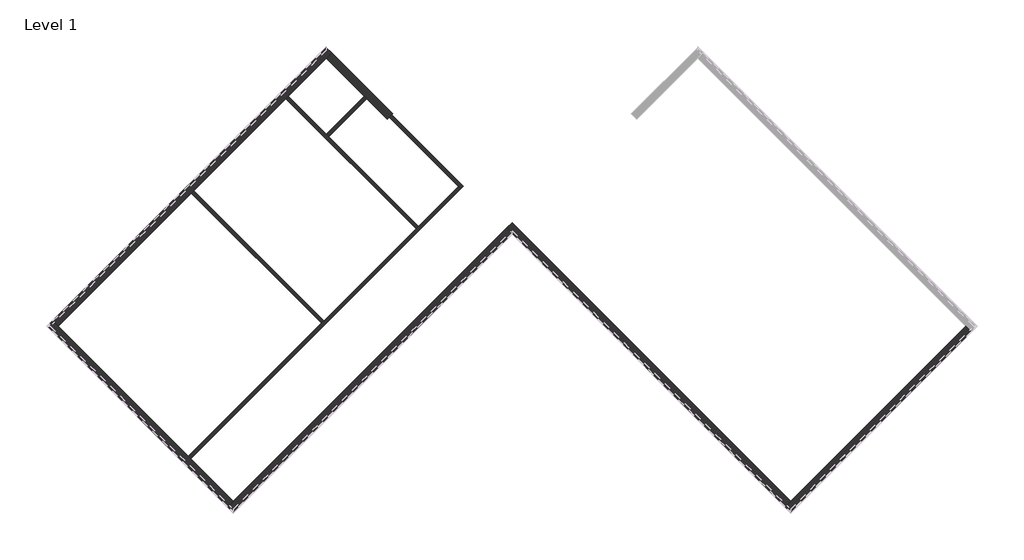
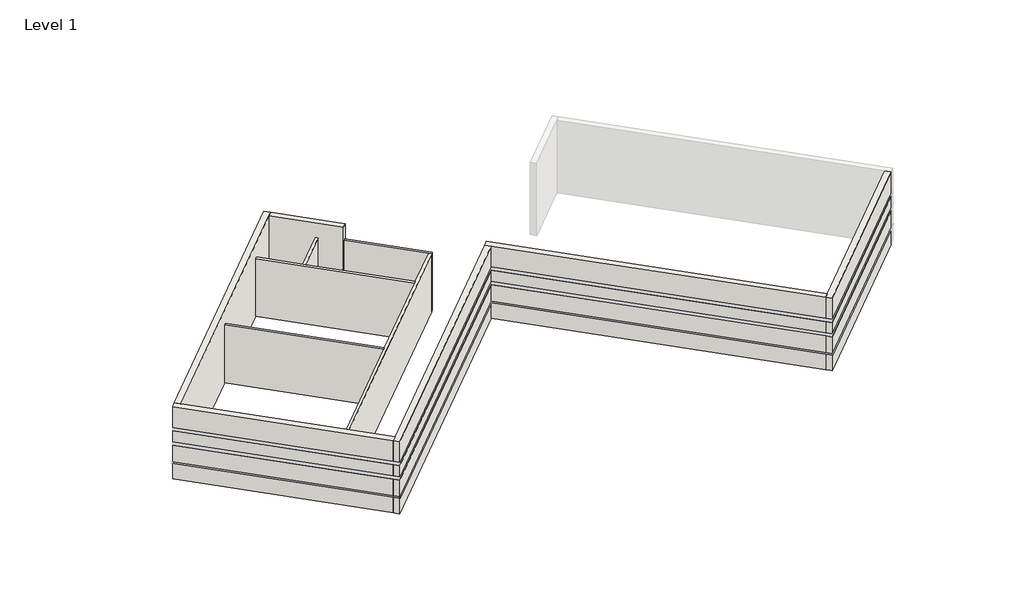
# One storey, part 1 of 2: 11 walls.
"""IFC4 building model written with IfcOpenShell, lengths in millimetres."""

from ifc_helpers import new_model, si_unit, frame, origin, origin_with_axes, place, context, project, spatial, polyline, circle_curve, outline, extrude, faceted_brep, element, save
from ifc_brep_helpers import plane_surface, cylinder_surface, revolved_surface, advanced_brep

model = new_model("IFC4")

# Units and contexts
model_context = context("Model", 3, world=origin())
ifc_project = project(units=[si_unit("LENGTHUNIT", "METRE", prefix="MILLI")], contexts=[model_context])

# Site, building, storey
site = spatial("IfcSite", under=ifc_project)
building = spatial("IfcBuilding", under=site)
storey = spatial("IfcBuildingStorey", under=building, Name="Level 1", Elevation=0.0)

# Walls
placement = place(None, origin())
element("IfcWall", 1, ObjectType="Exterior - Split Face and CMU on Mtl. Stud", at=placement, inside=storey, context=model_context, shape_type="Brep", body=[
    faceted_brep([(18186.1821115, -1357.9895101, 0.0), (10063.54045, -9480.6311716, 0.0), (9814.3383427, -9729.833279, 0.0), (9814.3383427, -9729.833279, 1016.0), (9879.4451996, -9664.7264221, 1016.0), (9879.4451996, -9664.7264221, 1085.85), (9814.3383427, -9729.833279, 1085.85), (9814.3383427, -9729.833279, 2133.6), (9879.4451996, -9664.7264221, 2133.6), (9879.4451996, -9664.7264221, 2336.8), (9814.3383427, -9729.833279, 2336.8), (9814.3383427, -9729.833279, 3048.0), (9879.4451996, -9664.7264221, 3048.0), (9879.4451996, -9664.7264221, 3251.2), (9814.3383427, -9729.833279, 3251.2), (9814.3383427, -9729.833279, 4572.0), (10063.54045, -9480.6311716, 4572.0), (18186.1821115, -1357.9895101, 4572.0), (18435.3842189, -1607.1916175, 4572.0), (10063.54045, -9979.0353863, 4572.0), (10063.54045, -9979.0353863, 3251.2), (18435.3842189, -1607.1916175, 3251.2), (10063.54045, -9979.0353863, 0.0), (18435.3842189, -1607.1916175, 0.0), (18435.3842189, -1607.1916175, 1016.0), (10063.54045, -9979.0353863, 1016.0), (10063.54045, -9979.0353863, 1085.85), (18435.3842189, -1607.1916175, 1085.85), (18435.3842189, -1607.1916175, 2133.6), (10063.54045, -9979.0353863, 2133.6), (10063.54045, -9979.0353863, 2336.8), (18435.3842189, -1607.1916175, 2336.8), (18435.3842189, -1607.1916175, 3048.0), (10063.54045, -9979.0353863, 3048.0), (9998.4335932, -9913.9285294, 0.0), (18370.277362, -1542.0847606, 3251.2), (18370.277362, -1542.0847606, 3048.0), (18370.277362, -1542.0847606, 2336.8), (18370.277362, -1542.0847606, 2133.6), (18370.277362, -1542.0847606, 1085.85), (18370.277362, -1542.0847606, 1016.0), (18370.277362, -1542.0847606, 0.0), (10063.54045, -9848.8216726, 1085.85), (10063.54045, -9848.8216726, 1016.0), (10063.54045, -9848.8216726, 2133.6), (10063.54045, -9848.8216726, 2336.8), (10063.54045, -9848.8216726, 3048.0), (10063.54045, -9848.8216726, 3251.2)], [[[0, 1, 2, 3, 4, 5, 6, 7, 8, 9, 10, 11, 12, 13, 14, 15, 16, 17]], [[18, 19, 20, 21]], [[22, 23, 24, 25]], [[26, 27, 28, 29]], [[30, 31, 32, 33]], [[17, 16, 15, 19, 18]], [[19, 15, 14, 20]], [[2, 34, 22, 25, 3]], [[6, 26, 29, 7]], [[10, 30, 33, 11]], [[0, 17, 18, 21, 35, 36, 32, 31, 37, 38, 28, 27, 39, 40, 24, 23, 41]], [[2, 1, 0, 41, 34]], [[41, 23, 22, 34]], [[5, 42, 39, 27, 26, 6]], [[40, 43, 4, 3, 25, 24]], [[42, 43, 40, 39]], [[43, 42, 5, 4]], [[38, 44, 8, 7, 29, 28]], [[9, 45, 37, 31, 30, 10]], [[45, 44, 38, 37]], [[44, 45, 9, 8]], [[36, 46, 12, 11, 33, 32]], [[13, 47, 35, 21, 20, 14]], [[47, 46, 36, 35]], [[46, 47, 13, 12]]]),
])
element("IfcWall", 2, ObjectType="Exterior - Split Face and CMU on Mtl. Stud", at=placement, inside=storey, context=model_context, shape_type="Brep", body=[
    faceted_brep([(10063.54045, -9480.6311716, 0.0), (-2868.0283643, 3450.9376427, 0.0), (-2868.0283643, 3450.9376427, 4572.0), (10063.54045, -9480.6311716, 4572.0), (9814.3383427, -9729.833279, 4572.0), (-2868.0283643, 2952.533428, 4572.0), (-3117.2304717, 3201.7355354, 4572.0), (-3117.2304717, 3201.7355354, 0.0), (-2868.0283643, 2952.533428, 0.0), (9814.3383427, -9729.833279, 0.0), (9814.3383427, -9729.833279, 1016.0), (-2868.0283643, 2952.533428, 1016.0), (-2933.1352212, 3017.6402849, 1016.0), (-2933.1352212, 3017.6402849, 1085.85), (-2868.0283643, 2952.533428, 1085.85), (9814.3383427, -9729.833279, 1085.85), (9814.3383427, -9729.833279, 2133.6), (-2868.0283643, 2952.533428, 2133.6), (-2933.1352212, 3017.6402849, 2133.6), (-2933.1352212, 3017.6402849, 2336.8), (-2868.0283643, 2952.533428, 2336.8), (9814.3383427, -9729.833279, 2336.8), (9814.3383427, -9729.833279, 3048.0), (-2868.0283643, 2952.533428, 3048.0), (-2933.1352212, 3017.6402849, 3048.0), (-2933.1352212, 3017.6402849, 3251.2), (-2868.0283643, 2952.533428, 3251.2), (9814.3383427, -9729.833279, 3251.2), (-3052.1236148, 3266.8423923, 0.0), (9879.4451996, -9664.7264221, 3251.2), (9879.4451996, -9664.7264221, 3048.0), (9879.4451996, -9664.7264221, 2336.8), (9879.4451996, -9664.7264221, 2133.6), (9879.4451996, -9664.7264221, 1085.85), (9879.4451996, -9664.7264221, 1016.0), (9879.4451996, -9664.7264221, 0.0), (-2868.0283643, 3082.7471418, 1085.85), (-2868.0283643, 3082.7471418, 1016.0), (-2868.0283643, 3082.7471418, 2133.6), (-2868.0283643, 3082.7471418, 2336.8), (-2868.0283643, 3082.7471418, 3048.0), (-2868.0283643, 3082.7471418, 3251.2)], [[[0, 1, 2, 3]], [[4, 5, 6, 7, 8, 9, 10, 11, 12, 13, 14, 15, 16, 17, 18, 19, 20, 21, 22, 23, 24, 25, 26, 27]], [[3, 2, 6, 5, 4]], [[2, 1, 28, 7, 6]], [[0, 3, 4, 27, 29, 30, 22, 21, 31, 32, 16, 15, 33, 34, 10, 9, 35]], [[1, 0, 35, 28]], [[35, 9, 8, 7, 28]], [[13, 36, 33, 15, 14]], [[34, 37, 12, 11, 10]], [[36, 37, 34, 33]], [[37, 36, 13, 12]], [[32, 38, 18, 17, 16]], [[19, 39, 31, 21, 20]], [[39, 38, 32, 31]], [[38, 39, 19, 18]], [[30, 40, 24, 23, 22]], [[25, 41, 29, 27, 26]], [[41, 40, 30, 29]], [[40, 41, 25, 24]]]),
])
element("IfcWall", 3, ObjectType="Exterior - Split Face and CMU on Mtl. Stud", at=placement, inside=storey, context=model_context, shape_type="Brep", body=[
    faceted_brep([(-3117.2304717, 3201.7355354, 0.0), (-15799.5971786, -9480.6311716, 0.0), (-16048.799286, -9729.833279, 0.0), (-16048.799286, -9729.833279, 1016.0), (-15983.6924291, -9664.7264221, 1016.0), (-15983.6924291, -9664.7264221, 1085.85), (-16048.799286, -9729.833279, 1085.85), (-16048.799286, -9729.833279, 2133.6), (-15983.6924291, -9664.7264221, 2133.6), (-15983.6924291, -9664.7264221, 2336.8), (-16048.799286, -9729.833279, 2336.8), (-16048.799286, -9729.833279, 3048.0), (-15983.6924291, -9664.7264221, 3048.0), (-15983.6924291, -9664.7264221, 3251.2), (-16048.799286, -9729.833279, 3251.2), (-16048.799286, -9729.833279, 4572.0), (-15799.5971786, -9480.6311716, 4572.0), (-3117.2304717, 3201.7355354, 4572.0), (-2868.0283643, 2952.533428, 4572.0), (-15799.5971786, -9979.0353863, 4572.0), (-15799.5971786, -9979.0353863, 3251.2), (-2868.0283643, 2952.533428, 3251.2), (-15799.5971786, -9979.0353863, 0.0), (-2868.0283643, 2952.533428, 0.0), (-2868.0283643, 2952.533428, 1016.0), (-15799.5971786, -9979.0353863, 1016.0), (-15799.5971786, -9979.0353863, 1085.85), (-2868.0283643, 2952.533428, 1085.85), (-2868.0283643, 2952.533428, 2133.6), (-15799.5971786, -9979.0353863, 2133.6), (-15799.5971786, -9979.0353863, 2336.8), (-2868.0283643, 2952.533428, 2336.8), (-2868.0283643, 2952.533428, 3048.0), (-15799.5971786, -9979.0353863, 3048.0), (-15864.7040355, -9913.9285294, 0.0), (-2933.1352212, 3017.6402849, 3251.2), (-2933.1352212, 3017.6402849, 3048.0), (-2933.1352212, 3017.6402849, 2336.8), (-2933.1352212, 3017.6402849, 2133.6), (-2933.1352212, 3017.6402849, 1085.85), (-2933.1352212, 3017.6402849, 1016.0), (-2933.1352212, 3017.6402849, 0.0), (-15799.5971786, -9848.8216726, 1085.85), (-15799.5971786, -9848.8216726, 1016.0), (-15799.5971786, -9848.8216726, 2133.6), (-15799.5971786, -9848.8216726, 2336.8), (-15799.5971786, -9848.8216726, 3048.0), (-15799.5971786, -9848.8216726, 3251.2)], [[[0, 1, 2, 3, 4, 5, 6, 7, 8, 9, 10, 11, 12, 13, 14, 15, 16, 17]], [[18, 19, 20, 21]], [[22, 23, 24, 25]], [[26, 27, 28, 29]], [[30, 31, 32, 33]], [[17, 16, 15, 19, 18]], [[19, 15, 14, 20]], [[2, 34, 22, 25, 3]], [[6, 26, 29, 7]], [[10, 30, 33, 11]], [[0, 17, 18, 21, 35, 36, 32, 31, 37, 38, 28, 27, 39, 40, 24, 23, 41]], [[2, 1, 0, 41, 34]], [[41, 23, 22, 34]], [[5, 42, 39, 27, 26, 6]], [[40, 43, 4, 3, 25, 24]], [[42, 43, 40, 39]], [[43, 42, 5, 4]], [[38, 44, 8, 7, 29, 28]], [[9, 45, 37, 31, 30, 10]], [[45, 44, 38, 37]], [[44, 45, 9, 8]], [[36, 46, 12, 11, 33, 32]], [[13, 47, 35, 21, 20, 14]], [[47, 46, 36, 35]], [[46, 47, 13, 12]]]),
])
element("IfcWall", 4, ObjectType="Exterior - Split Face and CMU on Mtl. Stud", at=placement, inside=storey, context=model_context, shape_type="Brep", body=[
    faceted_brep([(-15799.5971786, -9480.6311716, 0.0), (-17775.2535253, -7504.974825, 0.0), (-17885.2616628, -7394.9666875, 0.0), (-23922.2388402, -1357.9895101, 0.0), (-24171.4409475, -1108.7874027, 0.0), (-24171.4409475, -1108.7874027, 1016.0), (-24106.3340906, -1173.8942596, 1016.0), (-24106.3340906, -1173.8942596, 1085.85), (-24171.4409475, -1108.7874027, 1085.85), (-24171.4409475, -1108.7874027, 2133.6), (-24106.3340906, -1173.8942596, 2133.6), (-24106.3340906, -1173.8942596, 2336.8), (-24171.4409475, -1108.7874027, 2336.8), (-24171.4409475, -1108.7874027, 3048.0), (-24106.3340906, -1173.8942596, 3048.0), (-24106.3340906, -1173.8942596, 3251.2), (-24171.4409475, -1108.7874027, 3251.2), (-24171.4409475, -1108.7874027, 4572.0), (-23922.2388402, -1357.9895101, 4572.0), (-15799.5971786, -9480.6311716, 4572.0), (-16048.799286, -9729.833279, 4572.0), (-24420.6430549, -1357.9895101, 4572.0), (-24420.6430549, -1357.9895101, 3251.2), (-16048.799286, -9729.833279, 3251.2), (-24420.6430549, -1357.9895101, 0.0), (-16048.799286, -9729.833279, 0.0), (-16048.799286, -9729.833279, 1016.0), (-24420.6430549, -1357.9895101, 1016.0), (-24420.6430549, -1357.9895101, 1085.85), (-16048.799286, -9729.833279, 1085.85), (-16048.799286, -9729.833279, 2133.6), (-24420.6430549, -1357.9895101, 2133.6), (-24420.6430549, -1357.9895101, 2336.8), (-16048.799286, -9729.833279, 2336.8), (-16048.799286, -9729.833279, 3048.0), (-24420.6430549, -1357.9895101, 3048.0), (-24355.536198, -1292.8826532, 0.0), (-15983.6924291, -9664.7264221, 3251.2), (-15983.6924291, -9664.7264221, 3048.0), (-15983.6924291, -9664.7264221, 2336.8), (-15983.6924291, -9664.7264221, 2133.6), (-15983.6924291, -9664.7264221, 1085.85), (-15983.6924291, -9664.7264221, 1016.0), (-15983.6924291, -9664.7264221, 0.0), (-24290.4293411, -1357.9895101, 1085.85), (-24290.4293411, -1357.9895101, 1016.0), (-24290.4293411, -1357.9895101, 2133.6), (-24290.4293411, -1357.9895101, 2336.8), (-24290.4293411, -1357.9895101, 3048.0), (-24290.4293411, -1357.9895101, 3251.2)], [[[0, 1, 2, 3, 4, 5, 6, 7, 8, 9, 10, 11, 12, 13, 14, 15, 16, 17, 18, 19]], [[20, 21, 22, 23]], [[24, 25, 26, 27]], [[28, 29, 30, 31]], [[32, 33, 34, 35]], [[19, 18, 17, 21, 20]], [[21, 17, 16, 22]], [[4, 36, 24, 27, 5]], [[8, 28, 31, 9]], [[12, 32, 35, 13]], [[0, 19, 20, 23, 37, 38, 34, 33, 39, 40, 30, 29, 41, 42, 26, 25, 43]], [[4, 3, 2, 1, 0, 43, 36]], [[43, 25, 24, 36]], [[7, 44, 41, 29, 28, 8]], [[42, 45, 6, 5, 27, 26]], [[44, 45, 42, 41]], [[45, 44, 7, 6]], [[40, 46, 10, 9, 31, 30]], [[11, 47, 39, 33, 32, 12]], [[47, 46, 40, 39]], [[46, 47, 11, 10]], [[38, 48, 14, 13, 35, 34]], [[15, 49, 37, 23, 22, 16]], [[49, 48, 38, 37]], [[48, 49, 15, 14]]]),
])
element("IfcWall", 5, ObjectType="Exterior - Split Face and CMU on Mtl. Stud", at=placement, inside=storey, context=model_context, shape_type="Brep", body=[
    faceted_brep([(-23922.2388402, -1357.9895101, 0.0), (-17743.7048466, 4820.5444835, 0.0), (-17633.6967091, 4930.552621, 0.0), (-13359.2125777, 9205.0367523, 0.0), (-13249.2044403, 9315.0448898, 0.0), (-11489.0742405, 11075.1750895, 0.0), (-11239.8721332, 11324.3771969, 0.0), (-11239.8721332, 11324.3771969, 1016.0), (-11304.9789901, 11259.27034, 1016.0), (-11304.9789901, 11259.27034, 1085.85), (-11239.8721332, 11324.3771969, 1085.85), (-11239.8721332, 11324.3771969, 2133.6), (-11304.9789901, 11259.27034, 2133.6), (-11304.9789901, 11259.27034, 2336.8), (-11239.8721332, 11324.3771969, 2336.8), (-11239.8721332, 11324.3771969, 3048.0), (-11304.9789901, 11259.27034, 3048.0), (-11304.9789901, 11259.27034, 3251.2), (-11239.8721332, 11324.3771969, 3251.2), (-11239.8721332, 11324.3771969, 4572.0), (-11489.0742405, 11075.1750895, 4572.0), (-23922.2388402, -1357.9895101, 4572.0), (-24171.4409475, -1108.7874027, 4572.0), (-11489.0742405, 11573.5793042, 4572.0), (-11489.0742405, 11573.5793042, 3251.2), (-24171.4409475, -1108.7874027, 3251.2), (-11489.0742405, 11573.5793042, 0.0), (-24171.4409475, -1108.7874027, 0.0), (-24171.4409475, -1108.7874027, 1016.0), (-11489.0742405, 11573.5793042, 1016.0), (-11489.0742405, 11573.5793042, 1085.85), (-24171.4409475, -1108.7874027, 1085.85), (-24171.4409475, -1108.7874027, 2133.6), (-11489.0742405, 11573.5793042, 2133.6), (-11489.0742405, 11573.5793042, 2336.8), (-24171.4409475, -1108.7874027, 2336.8), (-24171.4409475, -1108.7874027, 3048.0), (-11489.0742405, 11573.5793042, 3048.0), (-11423.9673837, 11508.4724474, 0.0), (-24106.3340906, -1173.8942596, 3251.2), (-24106.3340906, -1173.8942596, 3048.0), (-24106.3340906, -1173.8942596, 2336.8), (-24106.3340906, -1173.8942596, 2133.6), (-24106.3340906, -1173.8942596, 1085.85), (-24106.3340906, -1173.8942596, 1016.0), (-24106.3340906, -1173.8942596, 0.0), (-11489.0742405, 11443.3655905, 1085.85), (-11489.0742405, 11443.3655905, 1016.0), (-11489.0742405, 11443.3655905, 2133.6), (-11489.0742405, 11443.3655905, 2336.8), (-11489.0742405, 11443.3655905, 3048.0), (-11489.0742405, 11443.3655905, 3251.2)], [[[0, 1, 2, 3, 4, 5, 6, 7, 8, 9, 10, 11, 12, 13, 14, 15, 16, 17, 18, 19, 20, 21]], [[22, 23, 24, 25]], [[26, 27, 28, 29]], [[30, 31, 32, 33]], [[34, 35, 36, 37]], [[21, 20, 19, 23, 22]], [[23, 19, 18, 24]], [[6, 38, 26, 29, 7]], [[10, 30, 33, 11]], [[14, 34, 37, 15]], [[0, 21, 22, 25, 39, 40, 36, 35, 41, 42, 32, 31, 43, 44, 28, 27, 45]], [[6, 5, 4, 3, 2, 1, 0, 45, 38]], [[45, 27, 26, 38]], [[9, 46, 43, 31, 30, 10]], [[44, 47, 8, 7, 29, 28]], [[46, 47, 44, 43]], [[47, 46, 9, 8]], [[42, 48, 12, 11, 33, 32]], [[13, 49, 41, 35, 34, 14]], [[49, 48, 42, 41]], [[48, 49, 13, 12]], [[40, 50, 16, 15, 37, 36]], [[17, 51, 39, 25, 24, 18]], [[51, 50, 40, 39]], [[50, 51, 17, 16]]]),
])
element("IfcWall", 6, ObjectType="Exterior - Split Face and CMU on Mtl. Stud", at=placement, inside=storey, context=model_context, shape_type="AdvancedBrep", body=[
    advanced_brep(
    [(-11489.0742405, 11075.1750895, 0.0), (-9728.9440408, 9315.0448898, 0.0), (-9618.9359033, 9205.0367523, 0.0), (-8658.0122729, 8244.1131219, 0.0), (-8658.0122729, 8244.1131219, 4572.0), (-11489.0742405, 11075.1750895, 4572.0), (-11239.8721332, 11324.3771969, 4572.0), (-8662.486224, 8746.9912878, 4572.0), (-8413.2817722, 8497.7868359, 4572.0), (-8413.2817722, 8497.7868359, 0.0), (-8662.486224, 8746.9912878, 0.0), (-11239.8721332, 11324.3771969, 0.0), (-11239.8721332, 11324.3771969, 1016.0), (-8662.486224, 8746.9912878, 1016.0), (-8597.3787742, 8681.8838379, 1016.0), (-8597.3787742, 8681.8838379, 1085.85), (-8662.486224, 8746.9912878, 1085.85), (-11239.8721332, 11324.3771969, 1085.85), (-11239.8721332, 11324.3771969, 2133.6), (-8662.486224, 8746.9912878, 2133.6), (-8597.3787742, 8681.8838379, 2133.6), (-8597.3787742, 8681.8838379, 2336.8), (-8662.486224, 8746.9912878, 2336.8), (-11239.8721332, 11324.3771969, 2336.8), (-11239.8721332, 11324.3771969, 3048.0), (-8662.486224, 8746.9912878, 3048.0), (-8597.3787742, 8681.8838379, 3048.0), (-8597.3787742, 8681.8838379, 3251.2), (-8662.486224, 8746.9912878, 3251.2), (-11239.8721332, 11324.3771969, 3251.2), (-8478.2967797, 8432.5881297, 0.0), (-11304.9789901, 11259.27034, 3251.2), (-11304.9789901, 11259.27034, 3048.0), (-11304.9789901, 11259.27034, 2336.8), (-11304.9789901, 11259.27034, 2133.6), (-11304.9789901, 11259.27034, 1085.85), (-11304.9789901, 11259.27034, 1016.0), (-11304.9789901, 11259.27034, 0.0), (-8662.3967205, 8616.6880705, 1085.85), (-8662.3967205, 8616.6880705, 1016.0), (-8662.3967205, 8616.6880705, 2336.8), (-8662.3967205, 8616.6880705, 2133.6), (-8662.3967205, 8616.6880705, 3251.2), (-8662.3967205, 8616.6880705, 3048.0)],
    [
        (0, 1),
        (1, 2),
        (2, 3),
        (3, 4),
        (4, 5),
        (5, 0),
        (6, 7),
        (7, 8),
        (8, 9),
        (9, 10),
        (10, 11),
        (11, 12),
        (12, 13),
        (13, 14),
        (14, 15),
        (15, 16),
        (16, 17),
        (17, 18),
        (18, 19),
        (19, 20),
        (20, 21),
        (21, 22),
        (22, 23),
        (23, 24),
        (24, 25),
        (25, 26),
        (26, 27),
        (27, 28),
        (28, 29),
        (29, 6),
        (4, 8, circle_curve(frame((-2868.0283643, 2903.1420194, 4572.0), z_axis=(0.0, 0.0, -1.0), x_axis=(1.0, 0.0, 0.0)), 7877.175)),
        (6, 5),
        (3, 30, circle_curve(frame((-2868.0283643, 2903.1420194, 0.0), z_axis=(0.0, 0.0, -1.0), x_axis=(1.0, 0.0, 0.0)), 7877.175)),
        (30, 9, circle_curve(frame((-2868.0283643, 2903.1420194, 0.0), z_axis=(0.0, 0.0, -1.0), x_axis=(1.0, 0.0, 0.0)), 7877.175)),
        (29, 31),
        (31, 32),
        (32, 24),
        (23, 33),
        (33, 34),
        (34, 18),
        (17, 35),
        (35, 36),
        (36, 12),
        (11, 37),
        (37, 0),
        (37, 30),
        (38, 39),
        (39, 36),
        (35, 38),
        (15, 38, circle_curve(frame((-2868.0283643, 2903.1420194, 1085.85), z_axis=(0.0, 0.0, 1.0), x_axis=(-0.7040995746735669, 0.7101012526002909, 0.0)), 8137.525)),
        (39, 14, circle_curve(frame((-2868.0283643, 2903.1420194, 1016.0), z_axis=(0.0, 0.0, -1.0), x_axis=(-0.7040995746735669, 0.7101012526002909, 0.0)), 8137.525)),
        (40, 41),
        (41, 34),
        (33, 40),
        (41, 20, circle_curve(frame((-2868.0283643, 2903.1420194, 2133.6), z_axis=(0.0, 0.0, -1.0), x_axis=(-0.7120553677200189, 0.7021233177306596, 0.0)), 8137.525)),
        (40, 21, circle_curve(frame((-2868.0283643, 2903.1420194, 2336.8), z_axis=(0.0, 0.0, -1.0), x_axis=(-0.7120553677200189, 0.7021233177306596, 0.0)), 8137.525)),
        (42, 43),
        (43, 32),
        (31, 42),
        (43, 26, circle_curve(frame((-2868.0283643, 2903.1420194, 3048.0), z_axis=(0.0, 0.0, -1.0), x_axis=(-0.7120553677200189, 0.7021233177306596, 0.0)), 8137.525)),
        (42, 27, circle_curve(frame((-2868.0283643, 2903.1420194, 3251.2), z_axis=(0.0, 0.0, -1.0), x_axis=(-0.7120553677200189, 0.7021233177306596, 0.0)), 8137.525)),
    ],
    [
        plane_surface(frame((-11738.2763479, 11324.3771969, 0.0), z_axis=(-0.7071067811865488, -0.7071067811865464, 0.0), x_axis=(0.7071067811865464, -0.7071067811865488, 0.0))),
        plane_surface(frame((-11489.0742405, 11573.5793042, 0.0), z_axis=(0.7071067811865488, 0.7071067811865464, 0.0), x_axis=(-0.7071067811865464, 0.7071067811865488, 0.0))),
        plane_surface(frame((-8786.2632499, 8372.3640989, 4572.0), z_axis=(0.0, 0.0, 1.0), x_axis=(0.7071067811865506, 0.7071067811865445, 0.0))),
        revolved_surface(polyline([(5009.146635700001, 2903.1420194, 0.0), (5009.146635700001, 2903.1420194, 4572.0)]), (-2868.0283643, 2903.1420194, 0.0), (0.0, 0.0, -1.0)),
        plane_surface(frame((-24171.4409475, -1607.1916175, 0.0), z_axis=(-0.7071067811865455, 0.7071067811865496, 0.0), x_axis=(0.7071067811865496, 0.7071067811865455, 0.0))),
        plane_surface(frame((-11613.6752942, 11199.7761432, 0.0), z_axis=(0.0, 0.0, -1.0000000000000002), x_axis=(0.7071067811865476, 0.7071067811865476, 0.0))),
        plane_surface(frame((0.0, 0.0, 0.0), z_axis=(0.0, 0.0, -1.0), x_axis=(1.0, 0.0, 0.0))),
        plane_surface(frame((-11489.0742405, 11443.3655905, 1016.0), z_axis=(0.7071067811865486, 0.7071067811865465, 0.0), x_axis=(0.7071067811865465, -0.7071067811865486, 0.0))),
        plane_surface(frame((-2868.0283643, 2903.1420194, 1085.85), z_axis=(0.0, 0.0, -1.0), x_axis=(-0.7040995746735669, 0.7101012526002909, 0.0))),
        plane_surface(frame((-2868.0283643, 2903.1420194, 1016.0), z_axis=(0.0, 0.0, 1.0), x_axis=(-0.7040995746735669, 0.7101012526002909, 0.0))),
        cylinder_surface(frame((-2868.0283643, 2903.1420194, 1016.0), z_axis=(0.0, 0.0, -1.0), x_axis=(-0.7040995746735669, 0.7101012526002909, 0.0)), 8137.525),
        plane_surface(frame((-11489.0742405, 11443.3655905, 2133.6), z_axis=(0.7071067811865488, 0.7071067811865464, 0.0), x_axis=(0.7071067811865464, -0.7071067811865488, 0.0))),
        plane_surface(frame((-2868.0283643, 2903.1420194, 2133.6), z_axis=(0.0, 0.0, 1.0), x_axis=(-0.7120553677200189, 0.7021233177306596, 0.0))),
        cylinder_surface(frame((-2868.0283643, 2903.1420194, 2133.6), z_axis=(0.0, 0.0, -1.0), x_axis=(-0.7120553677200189, 0.7021233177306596, 0.0)), 8137.525),
        plane_surface(frame((-2868.0283643, 2903.1420194, 2336.8), z_axis=(0.0, 0.0, -1.0), x_axis=(-0.7120553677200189, 0.7021233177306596, 0.0))),
        plane_surface(frame((-11489.0742405, 11443.3655905, 3048.0), z_axis=(0.7071067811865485, 0.7071067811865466, 0.0), x_axis=(0.7071067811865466, -0.7071067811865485, 0.0))),
        plane_surface(frame((-2868.0283643, 2903.1420194, 3048.0), z_axis=(0.0, 0.0, 1.0), x_axis=(-0.7120553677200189, 0.7021233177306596, 0.0))),
        cylinder_surface(frame((-2868.0283643, 2903.1420194, 3048.0), z_axis=(0.0, 0.0, -1.0), x_axis=(-0.7120553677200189, 0.7021233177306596, 0.0)), 8137.525),
        plane_surface(frame((-2868.0283643, 2903.1420194, 3251.2), z_axis=(0.0, 0.0, -1.0), x_axis=(-0.7120553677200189, 0.7021233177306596, 0.0))),
    ],
    [
        (0, [[1, 2, 3, 4, 5, 6]]),
        (1, [[7, 8, 9, 10, 11, 12, 13, 14, 15, 16, 17, 18, 19, 20, 21, 22, 23, 24, 25, 26, 27, 28, 29, 30]]),
        (2, [[-5, 31, -8, -7, 32]]),
        (3, [[-4, 33, 34, -9, -31]]),
        (4, [[-6, -32, -30, 35, 36, 37, -24, 38, 39, 40, -18, 41, 42, 43, -12, 44, 45]]),
        (5, [[-3, -2, -1, -45, 46, -33]]),
        (6, [[-44, -11, -10, -34, -46]]),
        (7, [[47, 48, -42, 49]]),
        (8, [[50, -49, -41, -17, -16]]),
        (9, [[-48, 51, -14, -13, -43]]),
        (10, [[-47, -50, -15, -51]]),
        (11, [[52, 53, -39, 54]]),
        (12, [[-53, 55, -20, -19, -40]]),
        (13, [[-52, 56, -21, -55]]),
        (14, [[-56, -54, -38, -23, -22]]),
        (15, [[57, 58, -36, 59]]),
        (16, [[-58, 60, -26, -25, -37]]),
        (17, [[-57, 61, -27, -60]]),
        (18, [[-61, -59, -35, -29, -28]]),
    ],
),
])
element("IfcWall", 7, ObjectType="Interior - 6 1/8\" Partition (2-hr)", at=placement, inside=storey, context=model_context, shape_type="Brep", body=[
    faceted_brep([(-17775.2535253, -7504.974825, 0.0), (-5238.5804157, 5031.6982846, 0.0), (-5238.5804157, 5031.6982846, 3657.6), (-17775.2535253, -7504.974825, 3657.6), (-17885.2616628, -7394.9666875, 0.0), (-17885.2616628, -7394.9666875, 3657.6), (-11706.7276692, -1216.4326939, 3657.6), (-11596.7195317, -1106.4245564, 3657.6), (-7322.2354004, 3168.0595749, 3657.6), (-7212.2272629, 3278.0677124, 3657.6), (-5348.5885532, 5141.7064221, 3657.6), (-5348.5885532, 5141.7064221, 0.0), (-7212.2272629, 3278.0677124, 0.0), (-7322.2354004, 3168.0595749, 0.0), (-11596.7195317, -1106.4245564, 0.0), (-11706.7276692, -1216.4326939, 0.0)], [[[0, 1, 2, 3]], [[4, 5, 6, 7, 8, 9, 10, 11, 12, 13, 14, 15]], [[1, 0, 4, 15, 14, 13, 12, 11]], [[3, 2, 10, 9, 8, 7, 6, 5]], [[0, 3, 5, 4]], [[2, 1, 11, 10]]]),
])
element("IfcWall", 8, ObjectType="Interior - 6 1/8\" Partition (2-hr)", at=placement, inside=storey, context=model_context, shape_type="Brep", body=[
    faceted_brep([(-7212.2272629, 3278.0677124, 0.0), (-11379.066103, 7444.9065526, 0.0), (-11489.0742405, 7554.9146901, 0.0), (-13249.2044403, 9315.0448898, 0.0), (-13249.2044403, 9315.0448898, 3657.6), (-11489.0742405, 7554.9146901, 3657.6), (-11379.066103, 7444.9065526, 3657.6), (-7212.2272629, 3278.0677124, 3657.6), (-7322.2354004, 3168.0595749, 0.0), (-7322.2354004, 3168.0595749, 3657.6), (-13359.2125777, 9205.0367523, 3657.6), (-13359.2125777, 9205.0367523, 0.0)], [[[0, 1, 2, 3, 4, 5, 6, 7]], [[8, 9, 10, 11]], [[3, 2, 1, 0, 8, 11]], [[7, 6, 5, 4, 10, 9]], [[4, 3, 11, 10]], [[0, 7, 9, 8]]]),
])
element("IfcWall", 9, ObjectType="Interior - 6 1/8\" Partition (2-hr)", at=placement, inside=storey, context=model_context, shape_type="AdvancedBrep", body=[
    advanced_brep(
    [(-5128.5722782, 5141.7064221, 0.0), (-8449.0111375, 8462.1452813, 0.0), (-8449.0111375, 8462.1452813, 3657.6), (-5128.5722782, 5141.7064221, 3657.6), (-5238.5804157, 5031.6982846, 0.0), (-5238.5804157, 5031.6982846, 3657.6), (-5348.5885532, 5141.7064221, 3657.6), (-8557.7157352, 8350.8336041, 3657.6), (-8557.7157352, 8350.8336041, 0.0), (-5348.5885532, 5141.7064221, 0.0)],
    [
        (0, 1),
        (1, 2),
        (2, 3),
        (3, 0),
        (4, 5),
        (5, 6),
        (6, 7),
        (7, 8),
        (8, 9),
        (9, 4),
        (0, 4),
        (8, 1, circle_curve(frame((-2868.0283643, 2903.1420194, 0.0), z_axis=(0.0, 0.0, -1.0), x_axis=(1.0, 0.0, 0.0)), 7877.175)),
        (2, 7, circle_curve(frame((-2868.0283643, 2903.1420194, 3657.6), z_axis=(0.0, 0.0, 1.0), x_axis=(1.0, 0.0, 0.0)), 7877.175)),
        (5, 3),
    ],
    [
        plane_surface(frame((-5183.576347, 5196.7104908, 0.0), z_axis=(0.7071067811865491, 0.7071067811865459, 0.0), x_axis=(-0.7071067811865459, 0.7071067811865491, 0.0))),
        plane_surface(frame((-5293.5844845, 5086.7023533, 0.0), z_axis=(-0.7071067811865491, -0.7071067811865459, 0.0), x_axis=(0.7071067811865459, -0.7071067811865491, 0.0))),
        plane_surface(frame((-5183.576347, 5196.7104908, 0.0), z_axis=(0.0, 0.0, -1.0), x_axis=(-0.707106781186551, -0.7071067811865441, 0.0))),
        plane_surface(frame((-8573.2406241, 8586.374768, 3657.6), z_axis=(0.0, 0.0, 1.0), x_axis=(-0.707106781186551, -0.7071067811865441, 0.0))),
        plane_surface(frame((-17899.854579, -7629.5758786, 0.0), z_axis=(0.7071067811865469, -0.7071067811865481, 0.0), x_axis=(0.7071067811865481, 0.7071067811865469, 0.0))),
        cylinder_surface(frame((-2868.0283643, 2903.1420194, 0.0), z_axis=(0.0, 0.0, -1.0), x_axis=(1.0, 0.0, 0.0)), 7877.175),
    ],
    [
        (0, [[1, 2, 3, 4]]),
        (1, [[5, 6, 7, 8, 9, 10]]),
        (2, [[-1, 11, -10, -9, 12]]),
        (3, [[-3, 13, -7, -6, 14]]),
        (4, [[-4, -14, -5, -11]]),
        (5, [[-2, -12, -8, -13]]),
    ],
),
])
element("IfcWall", 10, ObjectType="Interior - 6 1/8\" Partition (2-hr)", at=placement, inside=storey, context=model_context, shape_type="SweptSolid", body=[
    extrude(outline(polyline([(-11489.0742405, 7554.9146901), (-9728.9440408, 9315.0448898), (-9618.9359033, 9205.0367523), (-11379.066103, 7444.9065526), (-11489.0742405, 7554.9146901)])), origin_with_axes(), (0.0, 0.0, 1.0), 3657.6),
])
element("IfcWall", 11, ObjectType="Interior - 6 1/8\" Partition (2-hr)", at=placement, inside=storey, context=model_context, shape_type="SweptSolid", body=[
    extrude(outline(polyline([(-17633.6967091, 4930.552621), (-11596.7195317, -1106.4245564), (-11706.7276692, -1216.4326939), (-17743.7048466, 4820.5444835), (-17633.6967091, 4930.552621)])), origin_with_axes(), (0.0, 0.0, 1.0), 3657.6),
])

save(model, "model.ifc")
